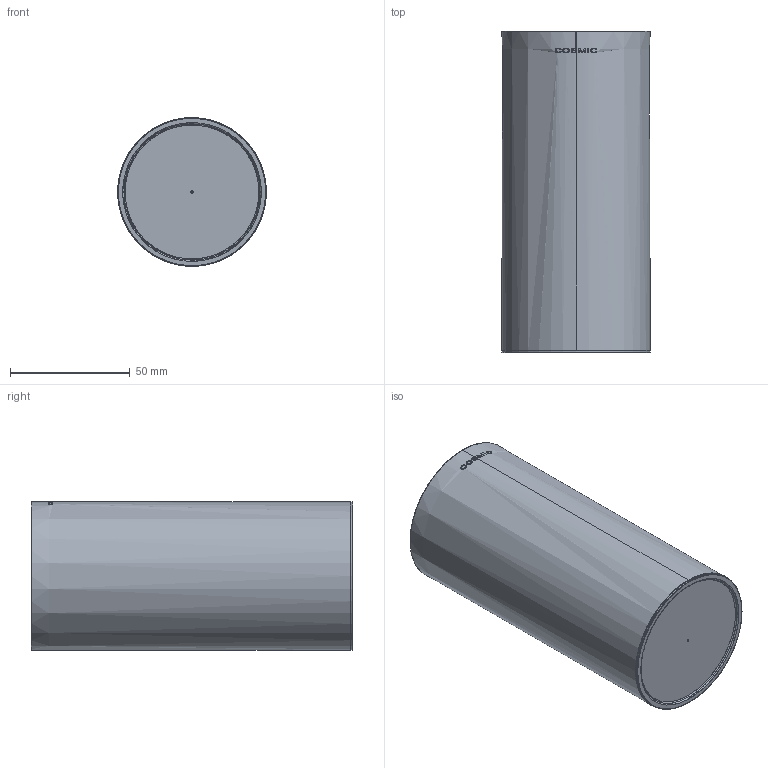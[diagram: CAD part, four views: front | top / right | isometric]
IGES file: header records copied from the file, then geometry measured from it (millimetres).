
Start section: SolidWorks IGES file using analytic representation for surfaces
Global section: file name: G:\Projects\New project\For Marketing\X_T\2018-9-28\replace\2050151VW.IGS; native system: SolidWorks 2016; preprocessor: SolidWorks 2016; author: merry; date: 180920.155515; units: millimetre
Bounding box: 62 x 134 x 62 mm (x, y, z)
Surface area: 47495.3 mm2 (no closed solid volume)
Topology: 0 solids, 0 shells, 88 faces, 1775 edges, 1759 vertices
Faces by surface type: bspline 59, revolution 29
